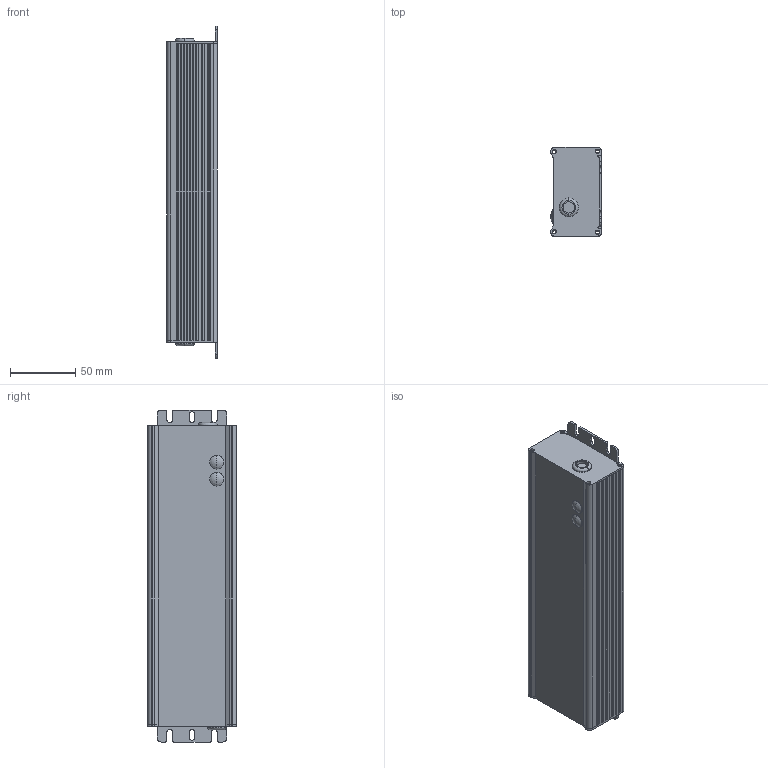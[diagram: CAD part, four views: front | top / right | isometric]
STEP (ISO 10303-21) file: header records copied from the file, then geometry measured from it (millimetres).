
FILE_DESCRIPTION(('Creo Elements/Direct Modeling STEP Export'),'2;1');
FILE_NAME('HVG-240-B.STP','2015-11-25T14:18:31',(''),(''),'PTC Creo Elements/Direct Modeling STEP processor for AP214 (Solid Model)','PTC Creo Elements/Direct Modeling 19.0 09-May-2014 (C) Parametric Technology GmbH','');
FILE_SCHEMA(('AUTOMOTIVE_DESIGN { 1 0 10303 214 1 1 1 1 }'));
Length unit declared in the file: millimetre
Products named in the file (2): CASE.PRT
Assembly tree (1 placements, depth 2):
  CASE.PRT
    CASE.PRT
Bounding box: 39.04 x 68.05 x 254.2 mm (x, y, z)
Volume: 106388.8 mm3; surface area: 119651.5 mm2
Topology: 1 solids, 1 shells, 325 faces, 921 edges, 596 vertices
Faces by surface type: plane 192, cylinder 105, cone 16, torus 8, sphere 4
Entity records: 10182 total; most frequent: ORIENTED_EDGE 1834, CARTESIAN_POINT 1792, DIRECTION 1667, EDGE_CURVE 917, VECTOR 625, LINE 625, VERTEX_POINT 596, AXIS2_PLACEMENT_3D 521
